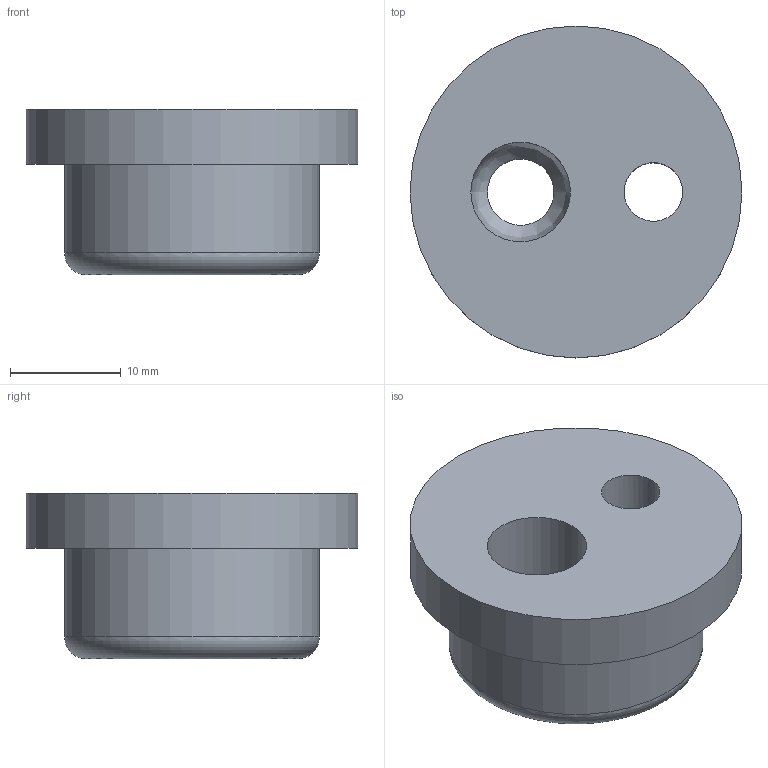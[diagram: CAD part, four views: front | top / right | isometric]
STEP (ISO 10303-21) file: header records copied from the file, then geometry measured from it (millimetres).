
FILE_DESCRIPTION(/* description */ (''),/* implementation_level */ '2;1');
FILE_NAME(/* name */ 'TubeCapT2 v3.step',/* time_stamp */ '2023-08-25T16:39:05+03:00',/* author */ (''),/* organization */ (''),/* preprocessor_version */ 'ST-DEVELOPER v20',/* originating_system */ 'Autodesk Translation Framework v12.9.0.99',/* authorisation */ '');
FILE_SCHEMA (('AUTOMOTIVE_DESIGN { 1 0 10303 214 3 1 1 }'));
Length unit declared in the file: millimetre
Products named in the file (1): TubeCapLargeDuranT2
Bounding box: 30 x 30 x 15 mm (x, y, z)
Volume: 6557.3 mm3; surface area: 3035.9 mm2
Topology: 1 solids, 1 shells, 10 faces, 23 edges, 15 vertices
Faces by surface type: cylinder 5, plane 3, bspline 1, torus 1
Full cylindrical faces by diameter (mm): 5.3 x1, 6 x1, 9 x1, 23 x1, 30 x1
Entity records: 378 total; most frequent: CARTESIAN_POINT 85, DIRECTION 57, ORIENTED_EDGE 46, AXIS2_PLACEMENT_3D 26, EDGE_CURVE 23, CIRCLE 16, VERTEX_POINT 15, EDGE_LOOP 14
